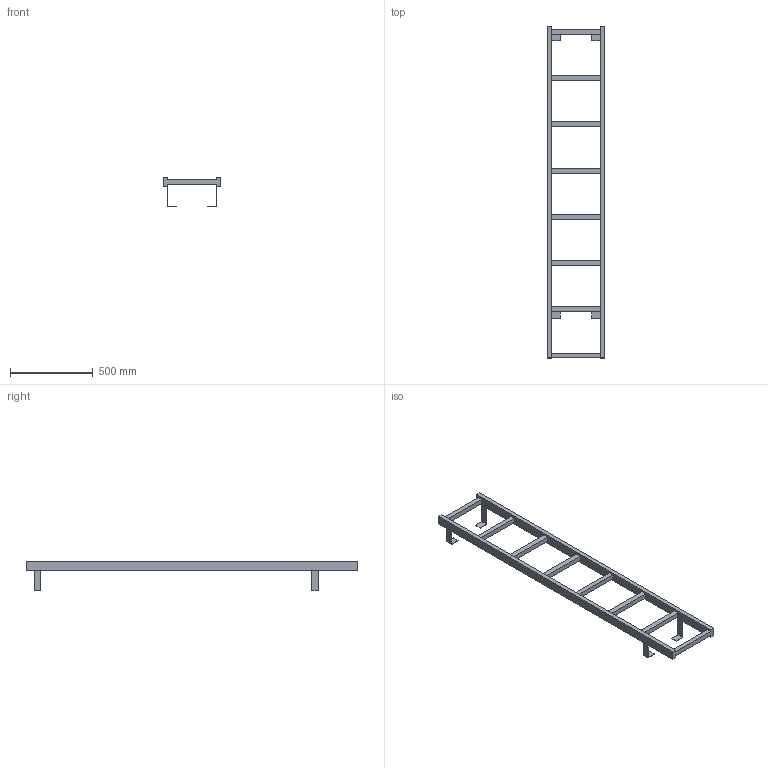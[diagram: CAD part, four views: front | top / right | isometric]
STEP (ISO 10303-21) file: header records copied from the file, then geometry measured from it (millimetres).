
FILE_DESCRIPTION((''),'2;1');
FILE_NAME('017_000109','2017-06-12T',('set'),('HUBER SE'),'PRO/ENGINEER BY PARAMETRIC TECHNOLOGY CORPORATION, 2015280','PRO/ENGINEER BY PARAMETRIC TECHNOLOGY CORPORATION, 2015280','');
FILE_SCHEMA(('CONFIG_CONTROL_DESIGN'));
Length unit declared in the file: millimetre
Products named in the file (1): 017_000109
Bounding box: 350 x 2010 x 178.5 mm (x, y, z)
Volume: 7953460 mm3; surface area: 998068 mm2
Topology: 1 solids, 1 shells, 74 faces, 317 edges, 241 vertices
Faces by surface type: plane 74
Entity records: 3106 total; most frequent: CARTESIAN_POINT 681, DIRECTION 436, ORIENTED_EDGE 432, VECTOR 270, LINE 270, EDGE_CURVE 216, VERTEX_POINT 140, COMPOSITE_CURVE_SEGMENT 101
